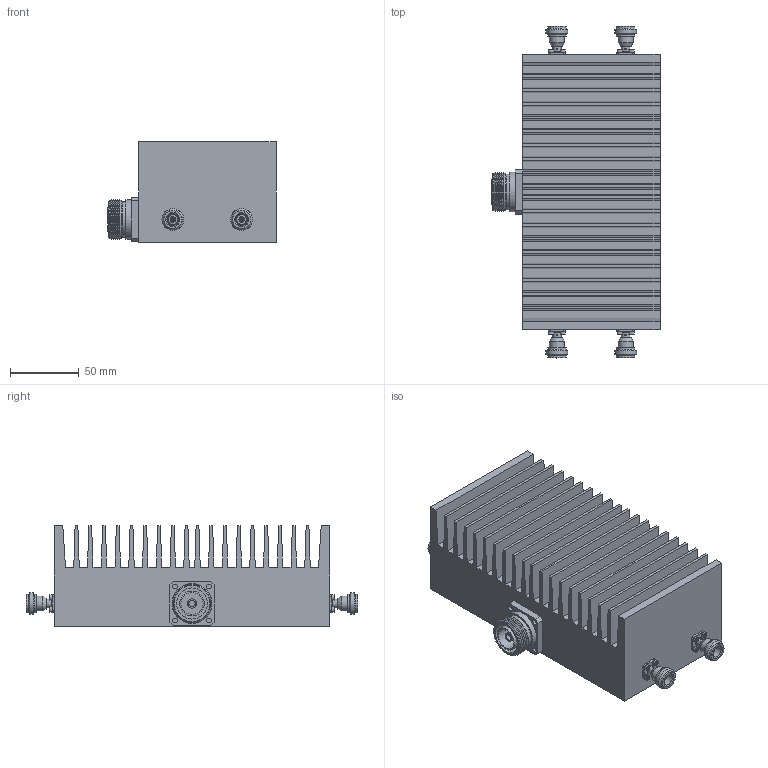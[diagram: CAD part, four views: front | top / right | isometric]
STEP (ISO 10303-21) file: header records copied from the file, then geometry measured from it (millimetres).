
FILE_DESCRIPTION(/* description */ ('Unknown'),/* implementation_level */ '2;1');
FILE_NAME(/* name */ 'DETI_MICROWAVE_NARROW_BAND_COMBINER_011132_STEP',/* time_stamp */ '2021-06-14T15:26:23+02:00',/* author */ ('ALG'),/* organization */ ('DETI'),/* preprocessor_version */ 'ST-DEVELOPER v16.7',/* originating_system */ 'Solid Edge',/* authorisation */ 'Unknown');
FILE_SCHEMA (('AUTOMOTIVE_DESIGN {1 0 10303 214 3 1 1}'));
Length unit declared in the file: millimetre
Products named in the file (1): CO-4400-5000-1000-716F-NF2
Bounding box: 122.2 x 241.4 x 73 mm (x, y, z)
Volume: 1073826.7 mm3; surface area: 205778.6 mm2
Topology: 1 solids, 21 shells, 700 faces, 1670 edges, 1082 vertices
Faces by surface type: plane 384, cylinder 143, cone 141, torus 32
Full cylindrical faces by diameter (mm): 1 x8, 1.275 x4, 2 x16, 2.1 x4, 2.9 x16, 3 x1, 3.03 x4, 3.5 x4, 3.8 x16, 4.06 x4, 4.1 x3, 4.2 x4, 4.6 x1, 6.3 x4, 6.7 x1, 7 x4, 10.9 x4, 13.5 x8, 15.84 x4, 16 x2, 17.9 x1, 22 x1, 22.55 x1, 26 x1, 27.2 x1, 28.8 x1, 29 x1
Entity records: 23531 total; most frequent: CARTESIAN_POINT 3901, DIRECTION 2982, ORIENTED_EDGE 2708, EDGE_CURVE 1354, AXIS2_PLACEMENT_3D 1191, FACE_BOUND 1036, EDGE_LOOP 1016, VERTEX_POINT 998
